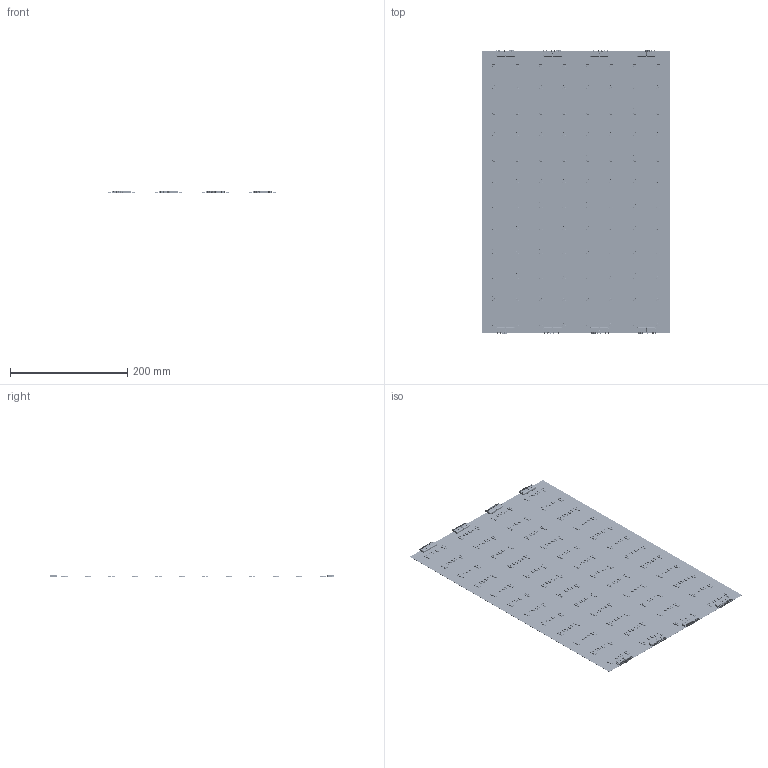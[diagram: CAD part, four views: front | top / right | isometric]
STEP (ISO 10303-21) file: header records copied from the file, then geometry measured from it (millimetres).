
FILE_DESCRIPTION (( 'STEP AP214' ), '1' );
FILE_NAME ('FlexSheet_V2_3_Full.STEP', '2021-05-03T12:30:46', ( '' ), ( '' ), 'SwSTEP 2.0', 'SolidWorks 2021', '' );
FILE_SCHEMA (( 'AUTOMOTIVE_DESIGN' ));
Length unit declared in the file: millimetre
Products named in the file (244): R4_U_auto_router1^FlexSheet_V2_2_top; J3(2)^FlexSheet_V2_2(2)_FlexSheet_V2_2; 2058703-2--3DModel-STEP-1^J2_FlexSheet_V2_2_top; U1_LED2_^FlexSheet_V2_2_top; Mid_Body^5975169584_R5_U_auto_router1_FlexSheet_V2_2_top; LED_Body.step; Extruded-5.step; SOP8(2)^U1_LED1_(2)_FlexSheet_V2_3(2)_FlexSheet_V2_3; SOP8^U1_LED1__FlexSheet_V2_2_top; D3_U_auto_router2^FlexSheet_V2_2_top; 5975169424(2)^R2_U_auto_router1(2)_FlexSheet_V2_3(2)_FlexSheet_V2_3; Terminal-1(2)^5975169424(2)_R2_U_auto_router1(2)_FlexSheet_V2_2(2)_FlexSheet_V2_2; Mid_Body^5975169584_R2_U_auto_router2_FlexSheet_V2_2_top; Body-1.step; D3_U_auto_router1(2)^FlexSheet_V2_3(2)_FlexSheet_V2_3; 5975169584.step; 7141280480(2)^D2_U_auto_router2(2)_FlexSheet_V2_3(2)_FlexSheet_V2_3; Extruded-5(2)^8131860880(2)_R1_LED1_(2)_FlexSheet_V2_2(2)_FlexSheet_V2_2; Mark-2^5975169424_R5_U_auto_router2_FlexSheet_V2_2_top; 8131866960^R1_LED2__FlexSheet_V2_2_top; C1_LED2_(2)^FlexSheet_V2_2(2)_FlexSheet_V2_2; Terminal-1(2)^5975169424(2)_R2_U_auto_router1(2)_FlexSheet_V2_3(2)_FlexSheet_V2_3; Extruded-7(2)^8131858000(2)_C1_LED1_(2)_FlexSheet_V2_3(2)_FlexSheet_V2_3; 8226063440^D3_U_auto_router1_FlexSheet_V2_2_top; Yellow_guts(2)^Black_Top_#2_LED_Assembly_part(2)_D1_LED1_(2)_FlexSheet_V2_3(2)_FlexSheet_V2_3; Mid_Body(2)^5975169584(2)_R5_U_auto_router1(2)_FlexSheet_V2_3(2)_FlexSheet_V2_3; 8131866960(2)^R1_LED1_(2)_FlexSheet_V2_2(2)_FlexSheet_V2_2; Mid_Body-1(2)^5975169424(2)_R2_U_auto_router1(2)_FlexSheet_V2_3(2)_FlexSheet_V2_3; R2_U_auto_router1(2)^FlexSheet_V2_3(2)_FlexSheet_V2_3; FlexSheet_V2_2(2)^FlexSheet_V2_2; C1_LED1_^FlexSheet_V2_2_top; FlexSheet_V2_3(2)^FlexSheet_V2_3; Extruded-6^8131866960_R1_LED1__FlexSheet_V2_2_top; R1_LED1_(2)^FlexSheet_V2_3(2)_FlexSheet_V2_3; Body^7141280480_D3_U_auto_router2_FlexSheet_V2_2_top; Extruded(2)^12539837584(2)_Q1_U_auto_router1(2)_FlexSheet_V2_3(2)_FlexSheet_V2_3; 8131858000(2)^C1_LED1_(2)_FlexSheet_V2_3(2)_FlexSheet_V2_3; D2_U_auto_router1(2)^FlexSheet_V2_3(2)_FlexSheet_V2_3; Body.step; D2_U_auto_router2(2)^FlexSheet_V2_3(2)_FlexSheet_V2_3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
Assembly tree (363 placements, depth 7):
  FlexSheet_V2_3_Full
    FlexSheet_V2_2^top  x4
      Board^FlexSheet_V2_2_top
        Open CASCADE STEP translator 6.8 9.1.1^Board_FlexSheet_V2_2_top
      J2^FlexSheet_V2_2_top
        2058703-2--3DModel-STEP-1^J2_FlexSheet_V2_2_top
      J1^FlexSheet_V2_2_top
        2058703-2--3DModel-STEP-1^J1_FlexSheet_V2_2_top
      Q1_U_auto_router1^FlexSheet_V2_2_top
        12539837584^Q1_U_auto_router1_FlexSheet_V2_2_top
          Extruded^12539837584_Q1_U_auto_router1_FlexSheet_V2_2_top
      R2_U_auto_router2^FlexSheet_V2_2_top
        5975169584^R2_U_auto_router2_FlexSheet_V2_2_top
          Terminal^5975169584_R2_U_auto_router2_FlexSheet_V2_2_top  x2
            Open_CASCADE_STEP_translator_6.8_15.2.1^Terminal_5975169584_R2_U_auto_router2_FlexSheet_V2_2_top
          Mid_Body^5975169584_R2_U_auto_router2_FlexSheet_V2_2_top
          Mark^5975169584_R2_U_auto_router2_FlexSheet_V2_2_top
      R2_U_auto_router1^FlexSheet_V2_2_top
        5975169424^R2_U_auto_router1_FlexSheet_V2_2_top
          Terminal-1^5975169424_R2_U_auto_router1_FlexSheet_V2_2_top  x2
            Open_CASCADE_STEP_translator_6.8_15.2.1-0^Terminal-1_5975169424_R2_U_auto_router1_FlexSheet_V2_2_top
          Mid_Body-1^5975169424_R2_U_auto_router1_FlexSheet_V2_2_top
          Mark-2^5975169424_R2_U_auto_router1_FlexSheet_V2_2_top
      R5_U_auto_router2^FlexSheet_V2_2_top
        5975169424^R5_U_auto_router2_FlexSheet_V2_2_top
          Terminal-1^5975169424_R5_U_auto_router2_FlexSheet_V2_2_top  x2
            Open_CASCADE_STEP_translator_6.8_15.2.1-0^Terminal-1_5975169424_R5_U_auto_router2_FlexSheet_V2_2_top
          Mid_Body-1^5975169424_R5_U_auto_router2_FlexSheet_V2_2_top
          Mark-2^5975169424_R5_U_auto_router2_FlexSheet_V2_2_top
      R4_U_auto_router2^FlexSheet_V2_2_top
        5975169424.step
          Terminal-1.step  x2
            Open_CASCADE_STEP_translator_6.8_15.2.1-0.step
          Mid_Body-1.step
          Mark-2.step
      D3_U_auto_router2^FlexSheet_V2_2_top
        7141280480^D3_U_auto_router2_FlexSheet_V2_2_top
          Body^7141280480_D3_U_auto_router2_FlexSheet_V2_2_top
            Open_CASCADE_STEP_translator_6.8_4.1.1^Body_7141280480_D3_U_auto_router2_FlexSheet_V2_2_top
          lead^7141280480_D3_U_auto_router2_FlexSheet_V2_2_top  x2
      D2_U_auto_router2^FlexSheet_V2_2_top
        7141280480.step
          Body.step
            Open_CASCADE_STEP_translator_6.8_4.1.1.step
          lead.step  x2
      R5_U_auto_router1^FlexSheet_V2_2_top
        5975169584^R5_U_auto_router1_FlexSheet_V2_2_top
          Terminal^5975169584_R5_U_auto_router1_FlexSheet_V2_2_top  x2
            Open_CASCADE_STEP_translator_6.8_15.2.1^Terminal_5975169584_R5_U_auto_router1_FlexSheet_V2_2_top
          Mid_Body^5975169584_R5_U_auto_router1_FlexSheet_V2_2_top
          Mark^5975169584_R5_U_auto_router1_FlexSheet_V2_2_top
      R4_U_auto_router1^FlexSheet_V2_2_top
        5975169584.step
          Terminal.step  x2
            Open_CASCADE_STEP_translator_6.8_15.2.1.step
          Mid_Body.step
          Mark.step
      Q1_U_auto_router2^FlexSheet_V2_2_top
        12539837584^Q1_U_auto_router2_FlexSheet_V2_2_top
          Extruded^12539837584_Q1_U_auto_router2_FlexSheet_V2_2_top
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Bounding box: 320 x 484.9 x 4.63 mm (x, y, z)
Volume: 80974.3 mm3; surface area: 358775 mm2
Topology: 3904 solids, 3904 shells, 59888 faces, 133344 edges, 76736 vertices
Faces by surface type: plane 35968, cylinder 15248, bspline 7840, cone 608, torus 128, sphere 96
Entity records: 132074 total; most frequent: CARTESIAN_POINT 29854, ORIENTED_EDGE 13244, DIRECTION 12769, EDGE_CURVE 6622, LINE 5215, VECTOR 5215, VERTEX_POINT 4076, AXIS2_PLACEMENT_3D 3777
